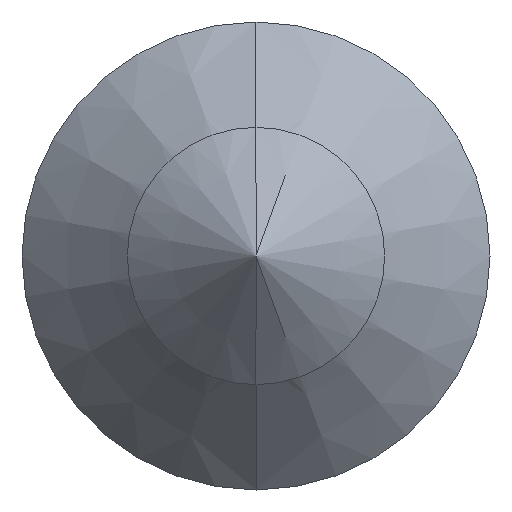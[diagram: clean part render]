
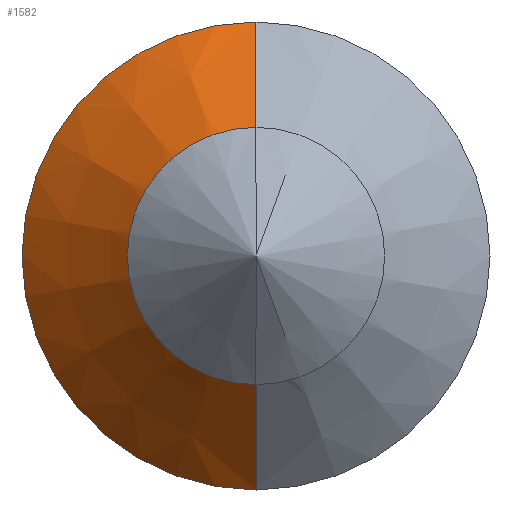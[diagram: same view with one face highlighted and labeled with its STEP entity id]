
A CAD part, left-side view. The second image highlights one B-rep face of the part: STEP entity #1582.
In plain terms, the highlighted conical face has half-angle 45 degrees and reference radius 2 mm.
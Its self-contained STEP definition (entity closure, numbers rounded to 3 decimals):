
#105 = DIRECTION ( 'NONE',  ( 0., 0., 1. ) ) ;
#146 = EDGE_LOOP ( 'NONE', ( #293, #3329, #886, #3038 ) ) ;
#246 = CARTESIAN_POINT ( 'NONE',  ( 0., 0., -2. ) ) ;
#250 = LINE ( 'NONE', #2225, #1133 ) ;
#293 = ORIENTED_EDGE ( 'NONE', *, *, #3065, .F. ) ;
#405 = FACE_OUTER_BOUND ( 'NONE', #146, .T. ) ;
#466 = DIRECTION ( 'NONE',  ( 1., 0., 0. ) ) ;
#513 = CIRCLE ( 'NONE', #2102, 0.9 ) ;
#523 = DIRECTION ( 'NONE',  ( 0.707, 0., -0.707 ) ) ;
#592 = DIRECTION ( 'NONE',  ( -1., 0., 0. ) ) ;
#886 = ORIENTED_EDGE ( 'NONE', *, *, #2980, .T. ) ;
#911 = CARTESIAN_POINT ( 'NONE',  ( -1.1, 0., 0.9 ) ) ;
#1050 = AXIS2_PLACEMENT_3D ( 'NONE', #2167, #592, #2423 ) ;
#1133 = VECTOR ( 'NONE', #2486, 1000. ) ;
#1427 = AXIS2_PLACEMENT_3D ( 'NONE', #2051, #466, #1793 ) ;
#1527 = CARTESIAN_POINT ( 'NONE',  ( 0., 0., 2. ) ) ;
#1582 = ADVANCED_FACE ( 'NONE', ( #405 ), #2332, .T. ) ;
#1584 = VERTEX_POINT ( 'NONE', #1527 ) ;
#1682 = DIRECTION ( 'NONE',  ( -1., 0., 0. ) ) ;
#1793 = DIRECTION ( 'NONE',  ( 0., 0., -1. ) ) ;
#1854 = VERTEX_POINT ( 'NONE', #3197 ) ;
#1875 = LINE ( 'NONE', #246, #2467 ) ;
#2051 = CARTESIAN_POINT ( 'NONE',  ( 0., 0., 0. ) ) ;
#2086 = EDGE_CURVE ( 'NONE', #2089, #1854, #1875, .T. ) ;
#2089 = VERTEX_POINT ( 'NONE', #2096 ) ;
#2096 = CARTESIAN_POINT ( 'NONE',  ( -1.1, 0., -0.9 ) ) ;
#2102 = AXIS2_PLACEMENT_3D ( 'NONE', #3222, #1682, #105 ) ;
#2167 = CARTESIAN_POINT ( 'NONE',  ( 0., 0., 0. ) ) ;
#2225 = CARTESIAN_POINT ( 'NONE',  ( 0., 0., 2. ) ) ;
#2332 = CONICAL_SURFACE ( 'NONE', #1427, 2., 0.785 ) ;
#2423 = DIRECTION ( 'NONE',  ( 0., 0., 1. ) ) ;
#2467 = VECTOR ( 'NONE', #523, 1000. ) ;
#2486 = DIRECTION ( 'NONE',  ( 0.707, 0., 0.707 ) ) ;
#2742 = CIRCLE ( 'NONE', #1050, 2. ) ;
#2980 = EDGE_CURVE ( 'NONE', #1584, #1854, #2742, .T. ) ;
#3038 = ORIENTED_EDGE ( 'NONE', *, *, #2086, .F. ) ;
#3065 = EDGE_CURVE ( 'NONE', #3095, #2089, #513, .T. ) ;
#3095 = VERTEX_POINT ( 'NONE', #911 ) ;
#3109 = EDGE_CURVE ( 'NONE', #3095, #1584, #250, .T. ) ;
#3197 = CARTESIAN_POINT ( 'NONE',  ( 0., 0., -2. ) ) ;
#3222 = CARTESIAN_POINT ( 'NONE',  ( -1.1, 0., 0. ) ) ;
#3329 = ORIENTED_EDGE ( 'NONE', *, *, #3109, .T. ) ;
